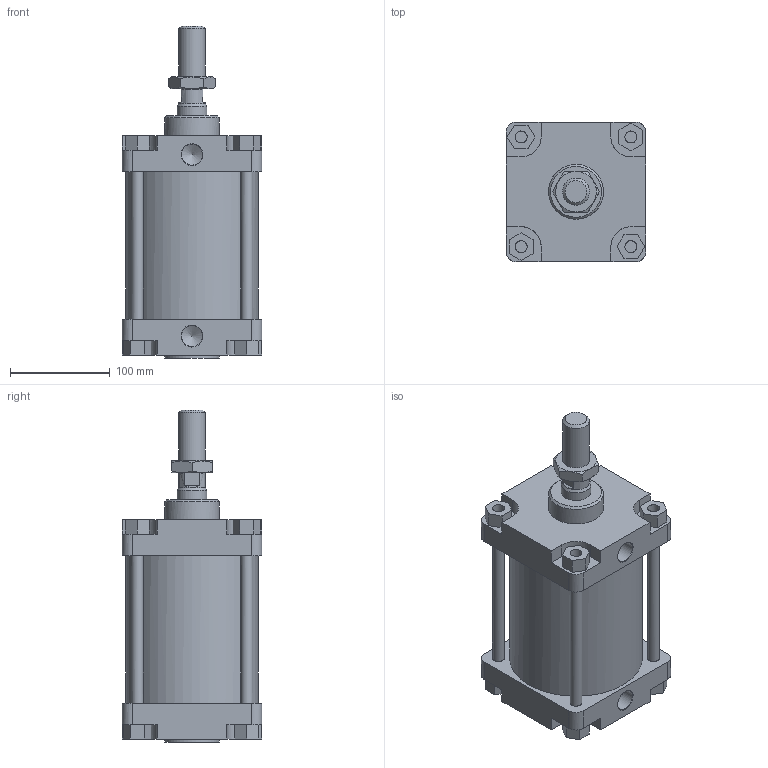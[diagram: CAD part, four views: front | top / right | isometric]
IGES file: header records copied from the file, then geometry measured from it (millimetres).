
Global section: file name: 1303_125_0075_01A; native system: Autodesk Inventor 2014; preprocessor: unknown; author: A. Manieri; date: 20161124.141420; units: millimetre
Bounding box: 140 x 140 x 333 mm (x, y, z)
Volume: 2661865.5 mm3; surface area: 369284.8 mm2
Topology: 9 solids, 9 shells, 175 faces, 440 edges, 295 vertices
Faces by surface type: bspline 175
